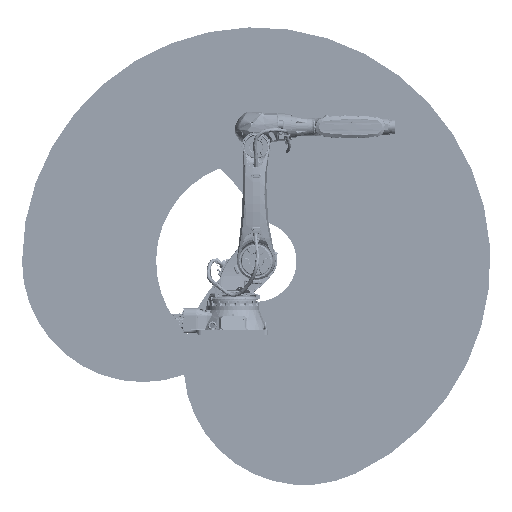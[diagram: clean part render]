
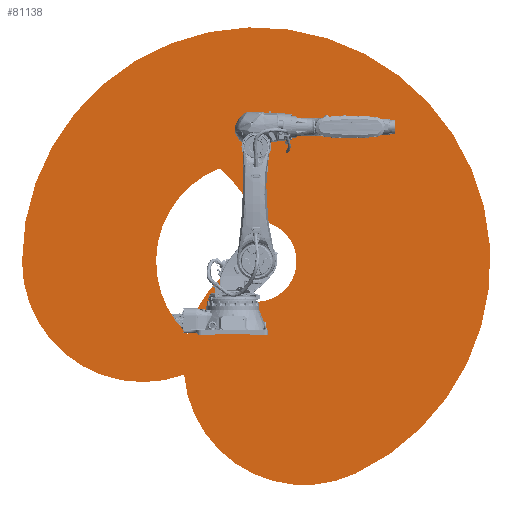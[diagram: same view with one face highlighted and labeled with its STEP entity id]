
A CAD part, front view. The second image highlights one B-rep face of the part: STEP entity #81138.
In plain terms, the highlighted planar face has unit normal (0, 1, 0).
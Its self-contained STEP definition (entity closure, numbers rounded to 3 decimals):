
#9932=FACE_BOUND('',#126600,.T.);
#9933=FACE_BOUND('',#126601,.T.);
#65173=CIRCLE('',#347548,854.939);
#65174=CIRCLE('',#347549,1022.89);
#65175=CIRCLE('',#347550,343.845);
#65176=CIRCLE('',#347551,1013.242);
#65177=CIRCLE('',#347552,2000.124);
#65178=CIRCLE('',#347553,1030.124);
#65179=CIRCLE('',#347554,1030.124);
#81138=ADVANCED_FACE('',(#9932,#9933),#93105,.T.);
#93105=PLANE('',#347555);
#126600=EDGE_LOOP('',(#190044,#190045,#190046,#190047));
#126601=EDGE_LOOP('',(#190048,#190049,#190050));
#190044=ORIENTED_EDGE('',*,*,#291381,.T.);
#190045=ORIENTED_EDGE('',*,*,#291382,.T.);
#190046=ORIENTED_EDGE('',*,*,#291383,.T.);
#190047=ORIENTED_EDGE('',*,*,#291384,.T.);
#190048=ORIENTED_EDGE('',*,*,#291385,.T.);
#190049=ORIENTED_EDGE('',*,*,#291386,.T.);
#190050=ORIENTED_EDGE('',*,*,#291387,.T.);
#250089=VERTEX_POINT('',#623421);
#250090=VERTEX_POINT('',#623422);
#250091=VERTEX_POINT('',#623424);
#250092=VERTEX_POINT('',#623426);
#250093=VERTEX_POINT('',#623429);
#250094=VERTEX_POINT('',#623430);
#250095=VERTEX_POINT('',#623432);
#291381=EDGE_CURVE('',#250089,#250090,#65173,.T.);
#291382=EDGE_CURVE('',#250090,#250091,#65174,.T.);
#291383=EDGE_CURVE('',#250091,#250092,#65175,.T.);
#291384=EDGE_CURVE('',#250092,#250089,#65176,.T.);
#291385=EDGE_CURVE('',#250093,#250094,#65177,.T.);
#291386=EDGE_CURVE('',#250094,#250095,#65178,.T.);
#291387=EDGE_CURVE('',#250095,#250093,#65179,.T.);
#347548=AXIS2_PLACEMENT_3D('',#623420,#407484,#407485);
#347549=AXIS2_PLACEMENT_3D('',#623423,#407486,#407487);
#347550=AXIS2_PLACEMENT_3D('',#623425,#407488,#407489);
#347551=AXIS2_PLACEMENT_3D('',#623427,#407490,#407491);
#347552=AXIS2_PLACEMENT_3D('',#623428,#407492,#407493);
#347553=AXIS2_PLACEMENT_3D('',#623431,#407494,#407495);
#347554=AXIS2_PLACEMENT_3D('',#623433,#407496,#407497);
#347555=AXIS2_PLACEMENT_3D('',#623434,#407498,#407499);
#407484=DIRECTION('',(0.,-1.,0.));
#407485=DIRECTION('',(0.,0.,1.));
#407486=DIRECTION('',(0.,1.,0.));
#407487=DIRECTION('',(0.,0.,1.));
#407488=DIRECTION('',(0.,-1.,0.));
#407489=DIRECTION('',(0.,0.,1.));
#407490=DIRECTION('',(0.,-1.,0.));
#407491=DIRECTION('',(0.,0.,1.));
#407492=DIRECTION('',(0.,1.,0.));
#407493=DIRECTION('',(1.,0.,0.));
#407494=DIRECTION('',(0.,1.,0.));
#407495=DIRECTION('',(1.,0.,0.));
#407496=DIRECTION('',(0.,1.,0.));
#407497=DIRECTION('',(1.,0.,0.));
#407498=DIRECTION('',(0.,1.,0.));
#407499=DIRECTION('',(1.,0.,0.));
#623420=CARTESIAN_POINT('',(0.,0.,0.));
#623421=CARTESIAN_POINT('',(-314.776,0.,794.882));
#623422=CARTESIAN_POINT('',(-587.378,0.,-621.215));
#623423=CARTESIAN_POINT('',(403.203,0.,-876.274));
#623424=CARTESIAN_POINT('',(-311.853,0.,-144.837));
#623425=CARTESIAN_POINT('',(0.,0.,0.));
#623426=CARTESIAN_POINT('',(0.,0.,343.845));
#623427=CARTESIAN_POINT('',(-957.099,0.,11.25));
#623428=CARTESIAN_POINT('',(0.,0.,0.));
#623429=CARTESIAN_POINT('',(-2000.124,0.,0.));
#623430=CARTESIAN_POINT('',(845.289,0.,-1812.728));
#623431=CARTESIAN_POINT('',(409.94,0.,-879.119));
#623432=CARTESIAN_POINT('',(-616.384,0.,-967.529));
#623433=CARTESIAN_POINT('',(-970.,0.,0.));
#623434=CARTESIAN_POINT('',(204.97,0.,-439.559));
